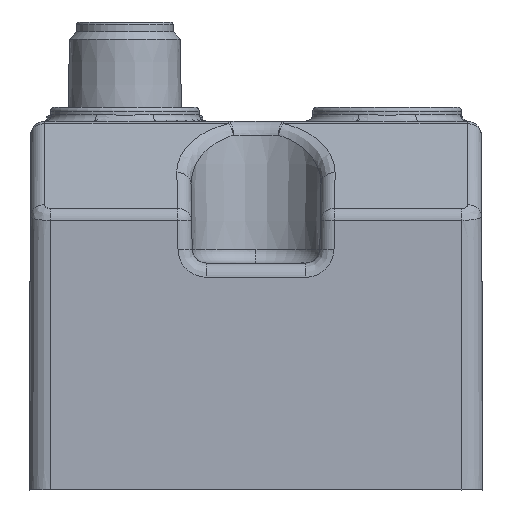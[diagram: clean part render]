
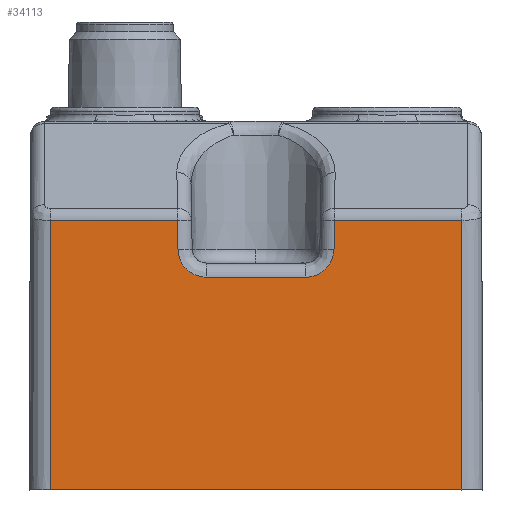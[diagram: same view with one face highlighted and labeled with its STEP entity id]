
A CAD part, front view. The second image highlights one B-rep face of the part: STEP entity #34113.
In plain terms, the highlighted planar face has unit normal (0, -1, 0.004).
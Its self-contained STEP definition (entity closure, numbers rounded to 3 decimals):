
#251 = CARTESIAN_POINT ( 'NONE',  ( 7.408, 0.045, 131.416 ) ) ;
#1505 = ORIENTED_EDGE ( 'NONE', *, *, #41162, .T. ) ;
#1871 = VERTEX_POINT ( 'NONE', #50639 ) ;
#1974 = CARTESIAN_POINT ( 'NONE',  ( 16.655, 0.038, 129.703 ) ) ;
#2176 = CARTESIAN_POINT ( 'NONE',  ( 17.147, 0.039, 129.846 ) ) ;
#3023 = ORIENTED_EDGE ( 'NONE', *, *, #32130, .T. ) ;
#4351 = CARTESIAN_POINT ( 'NONE',  ( 7.458, 0.044, 131.173 ) ) ;
#4750 = CARTESIAN_POINT ( 'NONE',  ( 7.404, 0.046, 131.668 ) ) ;
#5157 = CARTESIAN_POINT ( 'NONE',  ( 7.567, 0.043, 130.91 ) ) ;
#6301 = VERTEX_POINT ( 'NONE', #46883 ) ;
#6449 = ORIENTED_EDGE ( 'NONE', *, *, #37352, .T. ) ;
#7091 = CARTESIAN_POINT ( 'NONE',  ( 12.903, 0.055, 133.714 ) ) ;
#7165 = CARTESIAN_POINT ( 'NONE',  ( 12.903, -0.028, 114.698 ) ) ;
#7179 = B_SPLINE_CURVE_WITH_KNOTS ( 'NONE', 3,
 ( #9951, #56504, #28632, #38012, #57298, #39409, #43502, #29854, #58114, #39011, #48581, #44096, #57905, #34938, #25151, #11565, #2176, #11154, #1974, #11763 ),
 .UNSPECIFIED., .F., .F.,
 ( 4, 1, 1, 1, 2, 2, 2, 1, 1, 1, 2, 2, 4 ),
 ( 0., 0.125, 0.188, 0.219, 0.234, 0.25, 0.5, 0.625, 0.688, 0.719, 0.734, 0.75, 1. ),
 .UNSPECIFIED. ) ;
#7499 = VERTEX_POINT ( 'NONE', #54377 ) ;
#8739 = VERTEX_POINT ( 'NONE', #37036 ) ;
#8882 = LINE ( 'NONE', #29784, #43773 ) ;
#9642 = EDGE_LOOP ( 'NONE', ( #46310, #35925, #23278, #33199, #3023, #10909, #49026, #1505, #46987, #6449 ) ) ;
#9645 = CARTESIAN_POINT ( 'NONE',  ( 9.278, 0.038, 129.703 ) ) ;
#9951 = CARTESIAN_POINT ( 'NONE',  ( 18.403, 0.046, 131.668 ) ) ;
#10909 = ORIENTED_EDGE ( 'NONE', *, *, #16573, .T. ) ;
#11071 = DIRECTION ( 'NONE',  ( 0., 0.004, 1. ) ) ;
#11154 = CARTESIAN_POINT ( 'NONE',  ( 16.898, 0.038, 129.748 ) ) ;
#11565 = CARTESIAN_POINT ( 'NONE',  ( 17.164, 0.039, 129.853 ) ) ;
#11763 = CARTESIAN_POINT ( 'NONE',  ( 16.403, 0.038, 129.703 ) ) ;
#11854 = DIRECTION ( 'NONE',  ( 0., -1., 0.004 ) ) ;
#12203 = VERTEX_POINT ( 'NONE', #23803 ) ;
#13319 = VERTEX_POINT ( 'NONE', #39742 ) ;
#13926 = CARTESIAN_POINT ( 'NONE',  ( 7.602, 0.043, 130.832 ) ) ;
#14808 = CARTESIAN_POINT ( 'NONE',  ( 7.404, 0.046, 131.668 ) ) ;
#15055 = CARTESIAN_POINT ( 'NONE',  ( 18.438, 0.055, 133.714 ) ) ;
#15505 = VERTEX_POINT ( 'NONE', #15738 ) ;
#15734 = DIRECTION ( 'NONE',  ( -1., 0., 0. ) ) ;
#15738 = CARTESIAN_POINT ( 'NONE',  ( 18.438, 0.055, 133.714 ) ) ;
#16573 = EDGE_CURVE ( 'NONE', #8739, #15505, #43877, .T. ) ;
#17280 = FACE_OUTER_BOUND ( 'NONE', #9642, .T. ) ;
#17388 = LINE ( 'NONE', #57828, #29766 ) ;
#18558 = CARTESIAN_POINT ( 'NONE',  ( 7.904, 0.041, 130.371 ) ) ;
#18959 = CARTESIAN_POINT ( 'NONE',  ( 7.776, 0.042, 130.526 ) ) ;
#19351 = LINE ( 'NONE', #21059, #48445 ) ;
#20538 = PLANE ( 'NONE',  #56254 ) ;
#21059 = CARTESIAN_POINT ( 'NONE',  ( 12.903, -0.028, 114.698 ) ) ;
#22825 = CARTESIAN_POINT ( 'NONE',  ( 9.403, 0.038, 129.703 ) ) ;
#23231 = CARTESIAN_POINT ( 'NONE',  ( 8.881, 0.038, 129.77 ) ) ;
#23278 = ORIENTED_EDGE ( 'NONE', *, *, #57605, .F. ) ;
#23621 = CARTESIAN_POINT ( 'NONE',  ( 8.777, 0.038, 129.803 ) ) ;
#23803 = CARTESIAN_POINT ( 'NONE',  ( 7.368, 0.055, 133.714 ) ) ;
#24266 = EDGE_CURVE ( 'NONE', #1871, #12203, #46063, .T. ) ;
#24900 = EDGE_CURVE ( 'NONE', #7499, #13319, #8882, .T. ) ;
#25151 = CARTESIAN_POINT ( 'NONE',  ( 17.195, 0.039, 129.866 ) ) ;
#25519 = CARTESIAN_POINT ( 'NONE',  ( 12.903, 0.055, 133.714 ) ) ;
#25539 = VECTOR ( 'NONE', #54071, 1000. ) ;
#28117 = CARTESIAN_POINT ( 'NONE',  ( 7.655, 0.042, 130.727 ) ) ;
#28325 = CARTESIAN_POINT ( 'NONE',  ( 8.196, 0.04, 130.086 ) ) ;
#28472 = LINE ( 'NONE', #31101, #25539 ) ;
#28632 = CARTESIAN_POINT ( 'NONE',  ( 18.38, 0.045, 131.357 ) ) ;
#29208 = VERTEX_POINT ( 'NONE', #42619 ) ;
#29766 = VECTOR ( 'NONE', #11071, 1000. ) ;
#29784 = CARTESIAN_POINT ( 'NONE',  ( 12.903, 0.038, 129.703 ) ) ;
#29801 = EDGE_CURVE ( 'NONE', #15505, #37246, #35197, .T. ) ;
#29854 = CARTESIAN_POINT ( 'NONE',  ( 18.259, 0.043, 130.957 ) ) ;
#29941 = DIRECTION ( 'NONE',  ( 0., -0.004, -1. ) ) ;
#31101 = CARTESIAN_POINT ( 'NONE',  ( -1.597, -2177.84, -499000. ) ) ;
#32130 = EDGE_CURVE ( 'NONE', #6301, #8739, #17388, .T. ) ;
#33199 = ORIENTED_EDGE ( 'NONE', *, *, #54658, .F. ) ;
#34113 = ADVANCED_FACE ( 'NONE', ( #17280 ), #20538, .T. ) ;
#34938 = CARTESIAN_POINT ( 'NONE',  ( 17.242, 0.039, 129.886 ) ) ;
#35197 = LINE ( 'NONE', #15055, #42502 ) ;
#35925 = ORIENTED_EDGE ( 'NONE', *, *, #37218, .T. ) ;
#36891 = CARTESIAN_POINT ( 'NONE',  ( 9.092, 0.038, 129.72 ) ) ;
#37036 = CARTESIAN_POINT ( 'NONE',  ( 27.403, 0.055, 133.714 ) ) ;
#37218 = EDGE_CURVE ( 'NONE', #12203, #29208, #46620, .T. ) ;
#37246 = VERTEX_POINT ( 'NONE', #53984 ) ;
#37352 = EDGE_CURVE ( 'NONE', #13319, #1871, #41389, .T. ) ;
#38012 = CARTESIAN_POINT ( 'NONE',  ( 18.326, 0.044, 131.147 ) ) ;
#39011 = CARTESIAN_POINT ( 'NONE',  ( 17.999, 0.041, 130.467 ) ) ;
#39409 = CARTESIAN_POINT ( 'NONE',  ( 18.275, 0.044, 131. ) ) ;
#39742 = CARTESIAN_POINT ( 'NONE',  ( 9.403, 0.038, 129.703 ) ) ;
#41162 = EDGE_CURVE ( 'NONE', #37246, #7499, #7179, .T. ) ;
#41366 = CARTESIAN_POINT ( 'NONE',  ( 7.56, 0.043, 130.927 ) ) ;
#41389 = B_SPLINE_CURVE_WITH_KNOTS ( 'NONE', 3,
 ( #22825, #9645, #36891, #23231, #23621, #41764, #41973, #42178, #51319, #28325, #18558, #18959, #28117, #13926, #55804, #5157, #41366, #4351, #251, #4750 ),
 .UNSPECIFIED., .F., .F.,
 ( 4, 1, 1, 1, 2, 2, 2, 1, 1, 1, 2, 2, 4 ),
 ( 0., 0.125, 0.187, 0.219, 0.234, 0.25, 0.5, 0.625, 0.687, 0.719, 0.734, 0.75, 1. ),
 .UNSPECIFIED. ) ;
#41764 = CARTESIAN_POINT ( 'NONE',  ( 8.733, 0.038, 129.818 ) ) ;
#41793 = CARTESIAN_POINT ( 'NONE',  ( -1.597, -0.028, 114.698 ) ) ;
#41973 = CARTESIAN_POINT ( 'NONE',  ( 8.704, 0.038, 129.829 ) ) ;
#42178 = CARTESIAN_POINT ( 'NONE',  ( 8.69, 0.038, 129.834 ) ) ;
#42502 = VECTOR ( 'NONE', #52473, 1000. ) ;
#42619 = CARTESIAN_POINT ( 'NONE',  ( -1.597, 0.055, 133.714 ) ) ;
#43130 = VECTOR ( 'NONE', #56694, 1000. ) ;
#43502 = CARTESIAN_POINT ( 'NONE',  ( 18.264, 0.043, 130.97 ) ) ;
#43773 = VECTOR ( 'NONE', #15734, 1000. ) ;
#43877 = LINE ( 'NONE', #7091, #53297 ) ;
#44096 = CARTESIAN_POINT ( 'NONE',  ( 17.551, 0.039, 130.055 ) ) ;
#44653 = DIRECTION ( 'NONE',  ( -1., 0., 0. ) ) ;
#46063 = LINE ( 'NONE', #14808, #43130 ) ;
#46310 = ORIENTED_EDGE ( 'NONE', *, *, #24266, .T. ) ;
#46620 = LINE ( 'NONE', #25519, #58965 ) ;
#46883 = CARTESIAN_POINT ( 'NONE',  ( 27.403, -0.028, 114.698 ) ) ;
#46987 = ORIENTED_EDGE ( 'NONE', *, *, #24900, .T. ) ;
#48445 = VECTOR ( 'NONE', #52953, 1000. ) ;
#48581 = CARTESIAN_POINT ( 'NONE',  ( 17.708, 0.04, 130.181 ) ) ;
#49026 = ORIENTED_EDGE ( 'NONE', *, *, #29801, .T. ) ;
#49744 = VERTEX_POINT ( 'NONE', #41793 ) ;
#50639 = CARTESIAN_POINT ( 'NONE',  ( 7.404, 0.046, 131.668 ) ) ;
#51319 = CARTESIAN_POINT ( 'NONE',  ( 8.421, 0.039, 129.939 ) ) ;
#52473 = DIRECTION ( 'NONE',  ( -0.017, -0.004, -1. ) ) ;
#52953 = DIRECTION ( 'NONE',  ( -1., 0., 0. ) ) ;
#53297 = VECTOR ( 'NONE', #53840, 1000. ) ;
#53840 = DIRECTION ( 'NONE',  ( -1., 0., 0. ) ) ;
#53984 = CARTESIAN_POINT ( 'NONE',  ( 18.403, 0.046, 131.668 ) ) ;
#54071 = DIRECTION ( 'NONE',  ( 0., 0.004, 1. ) ) ;
#54377 = CARTESIAN_POINT ( 'NONE',  ( 16.403, 0.038, 129.703 ) ) ;
#54658 = EDGE_CURVE ( 'NONE', #6301, #49744, #19351, .T. ) ;
#55804 = CARTESIAN_POINT ( 'NONE',  ( 7.581, 0.043, 130.879 ) ) ;
#56254 = AXIS2_PLACEMENT_3D ( 'NONE', #7165, #11854, #29941 ) ;
#56504 = CARTESIAN_POINT ( 'NONE',  ( 18.4, 0.046, 131.542 ) ) ;
#56694 = DIRECTION ( 'NONE',  ( -0.017, 0.004, 1. ) ) ;
#57298 = CARTESIAN_POINT ( 'NONE',  ( 18.292, 0.044, 131.044 ) ) ;
#57605 = EDGE_CURVE ( 'NONE', #49744, #29208, #28472, .T. ) ;
#57828 = CARTESIAN_POINT ( 'NONE',  ( 27.403, -0.028, 114.698 ) ) ;
#57905 = CARTESIAN_POINT ( 'NONE',  ( 17.348, 0.039, 129.937 ) ) ;
#58114 = CARTESIAN_POINT ( 'NONE',  ( 18.149, 0.042, 130.689 ) ) ;
#58965 = VECTOR ( 'NONE', #44653, 1000. ) ;
